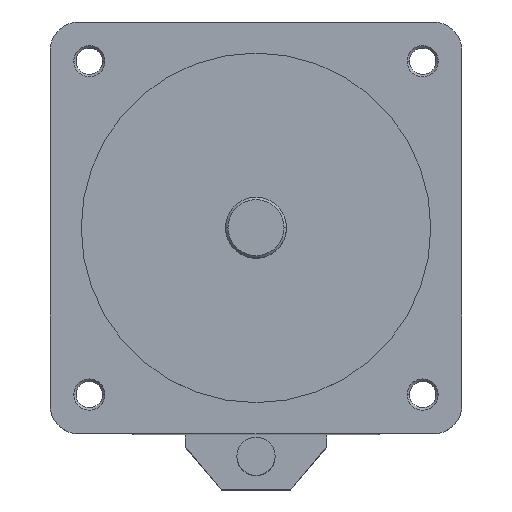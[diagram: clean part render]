
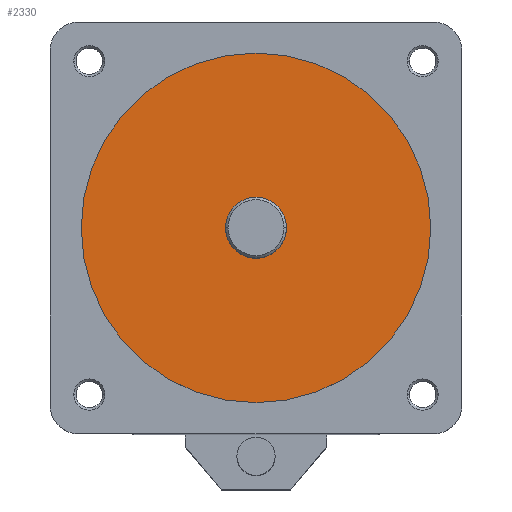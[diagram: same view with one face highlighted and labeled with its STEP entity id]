
A CAD part, top view. The second image highlights one B-rep face of the part: STEP entity #2330.
In plain terms, the highlighted planar face has unit normal (0, 0, 1).
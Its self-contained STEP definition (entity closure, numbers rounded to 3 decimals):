
#1422 = CARTESIAN_POINT ( 'NONE',  ( 36.5, 0., 140.1 ) ) ;
#1424 = CARTESIAN_POINT ( 'NONE',  ( 6.35, 0., 140.1 ) ) ;
#1430 = AXIS2_PLACEMENT_3D ( 'NONE', #1484, #1483, #1482 ) ;
#1431 = CIRCLE ( 'NONE', #1430, 6.35 ) ;
#1440 = CARTESIAN_POINT ( 'NONE',  ( -6.35, 0., 140.1 ) ) ;
#1460 = DIRECTION ( 'NONE',  ( 1., 0., 0. ) ) ;
#1461 = DIRECTION ( 'NONE',  ( 0., 0., 1. ) ) ;
#1462 = CARTESIAN_POINT ( 'NONE',  ( 0., 0., 140.1 ) ) ;
#1463 = AXIS2_PLACEMENT_3D ( 'NONE', #1462, #1461, #1460 ) ;
#1477 = CIRCLE ( 'NONE', #1463, 36.5 ) ;
#1482 = DIRECTION ( 'NONE',  ( 1., 0., 0. ) ) ;
#1483 = DIRECTION ( 'NONE',  ( 0., 0., 1. ) ) ;
#1484 = CARTESIAN_POINT ( 'NONE',  ( 0., 0., 140.1 ) ) ;
#1501 = CARTESIAN_POINT ( 'NONE',  ( -36.5, 0., 140.1 ) ) ;
#1664 = AXIS2_PLACEMENT_3D ( 'NONE', #1722, #1721, #1720 ) ;
#1666 = DIRECTION ( 'NONE',  ( 1., 0., 0. ) ) ;
#1667 = DIRECTION ( 'NONE',  ( 0., 0., 1. ) ) ;
#1668 = CARTESIAN_POINT ( 'NONE',  ( 0., 0., 140.1 ) ) ;
#1669 = DIRECTION ( 'NONE',  ( 1., 0., 0. ) ) ;
#1670 = DIRECTION ( 'NONE',  ( 0., 0., 1. ) ) ;
#1671 = AXIS2_PLACEMENT_3D ( 'NONE', #1678, #1670, #1669 ) ;
#1672 = CIRCLE ( 'NONE', #1671, 36.5 ) ;
#1674 = AXIS2_PLACEMENT_3D ( 'NONE', #1668, #1667, #1666 ) ;
#1675 = PLANE ( 'NONE',  #1664 ) ;
#1676 = FACE_OUTER_BOUND ( 'NONE', #2328, .T. ) ;
#1678 = CARTESIAN_POINT ( 'NONE',  ( 0., 0., 140.1 ) ) ;
#1679 = FACE_BOUND ( 'NONE', #2358, .T. ) ;
#1682 = CIRCLE ( 'NONE', #1674, 6.35 ) ;
#1720 = DIRECTION ( 'NONE',  ( 1., 0., 0. ) ) ;
#1721 = DIRECTION ( 'NONE',  ( 0., 0., 1. ) ) ;
#1722 = CARTESIAN_POINT ( 'NONE',  ( 0., 0., 140.1 ) ) ;
#2152 = VERTEX_POINT ( 'NONE', #1440 ) ;
#2162 = VERTEX_POINT ( 'NONE', #1422 ) ;
#2165 = VERTEX_POINT ( 'NONE', #1424 ) ;
#2167 = EDGE_CURVE ( 'NONE', #2165, #2152, #1431, .T. ) ;
#2178 = EDGE_CURVE ( 'NONE', #2162, #2193, #1477, .T. ) ;
#2193 = VERTEX_POINT ( 'NONE', #1501 ) ;
#2326 = ORIENTED_EDGE ( 'NONE', *, *, #2329, .F. ) ;
#2327 = EDGE_CURVE ( 'NONE', #2193, #2162, #1672, .T. ) ;
#2328 = EDGE_LOOP ( 'NONE', ( #2331, #2332 ) ) ;
#2329 = EDGE_CURVE ( 'NONE', #2152, #2165, #1682, .T. ) ;
#2330 = ADVANCED_FACE ( 'NONE', ( #1676, #1679 ), #1675, .T. ) ;
#2331 = ORIENTED_EDGE ( 'NONE', *, *, #2327, .T. ) ;
#2332 = ORIENTED_EDGE ( 'NONE', *, *, #2178, .T. ) ;
#2357 = ORIENTED_EDGE ( 'NONE', *, *, #2167, .F. ) ;
#2358 = EDGE_LOOP ( 'NONE', ( #2326, #2357 ) ) ;
